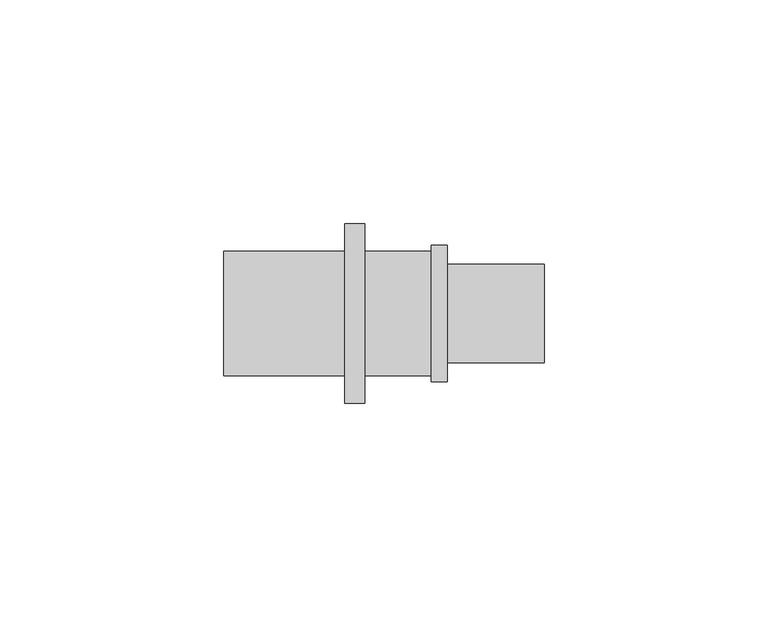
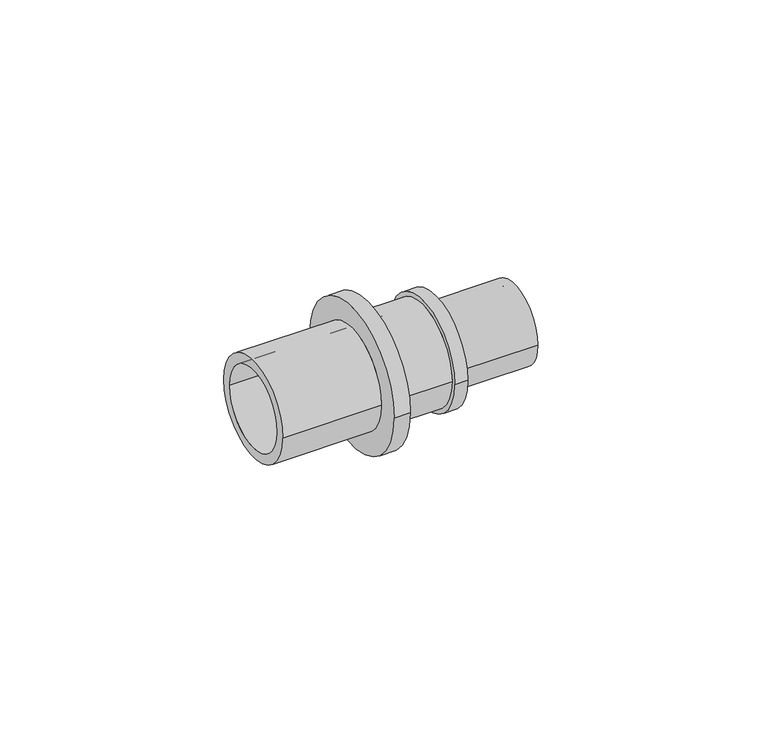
"""IFC4 building model written with IfcOpenShell, lengths in millimetres: pipe fitting geometry, Coupling transistion : C RE SDR11 LX."""

from ifc_helpers import new_model, si_unit, frame, origin, place, context, project, spatial, polyline, circle_curve, source, transform, mapped, element, save
from ifc_brep_helpers import plane_surface, cylinder_surface, revolved_surface, advanced_brep


def pipe_fitting_af9ba397(model_context):
    return source(origin(), model_context, "Body", "AdvancedBrep", [
        advanced_brep(
        [(-11.9, 13.95, 0.0), (-11.9, -13.95, 0.0), (-38.9, -13.95, 0.0), (-38.9, 13.95, 0.0), (-7.5, 20.0, 0.0), (-7.5, -20.0, 0.0), (-11.9, -20.0, 0.0), (-11.9, 20.0, 0.0), (7.4, 13.95, 0.0), (7.4, -13.95, 0.0), (-7.5, -13.95, 0.0), (-7.5, 13.95, 0.0), (11.0, 15.25, 0.0), (11.0, -15.25, 0.0), (7.4, -15.25, 0.0), (7.4, 15.25, 0.0), (32.6, 11.0, 0.0), (32.6, -11.0, 0.0), (11.0, -11.0, 0.0), (11.0, 11.0, 0.0), (0.0, 8.9, 0.0), (0.0, -8.9, 0.0), (32.6, -8.9, 0.0), (32.6, 8.9, 0.0), (-38.9, 11.2, 0.0), (-38.9, -11.2, 0.0), (0.0, -11.2, 0.0), (0.0, 11.2, 0.0)],
        [
            (0, 1, circle_curve(frame((-11.9, 0.0, 0.0), z_axis=(-1.0, 0.0, 0.0), x_axis=(0.0, -1.0, 0.0)), 13.95)),
            (1, 2),
            (2, 3, circle_curve(frame((-38.9, 0.0, 0.0), z_axis=(1.0, 0.0, 0.0), x_axis=(0.0, -1.0, 0.0)), 13.95)),
            (3, 0),
            (4, 5, circle_curve(frame((-7.5, 0.0, 0.0), z_axis=(-1.0, 0.0, 0.0), x_axis=(0.0, -1.0, 0.0)), 20.0)),
            (5, 6),
            (6, 7, circle_curve(frame((-11.9, 0.0, 0.0), z_axis=(1.0, 0.0, 0.0), x_axis=(0.0, -1.0, 0.0)), 20.0)),
            (7, 4),
            (8, 9, circle_curve(frame((7.4, 0.0, 0.0), z_axis=(-1.0, 0.0, 0.0), x_axis=(0.0, -1.0, 0.0)), 13.95)),
            (9, 10),
            (10, 11, circle_curve(frame((-7.5, 0.0, 0.0), z_axis=(1.0, 0.0, 0.0), x_axis=(0.0, -1.0, 0.0)), 13.95)),
            (11, 8),
            (12, 13, circle_curve(frame((11.0, 0.0, 0.0), z_axis=(-1.0, 0.0, 0.0), x_axis=(0.0, -1.0, 0.0)), 15.25)),
            (13, 14),
            (14, 15, circle_curve(frame((7.4, 0.0, 0.0), z_axis=(1.0, 0.0, 0.0), x_axis=(0.0, -1.0, 0.0)), 15.25)),
            (15, 12),
            (16, 17, circle_curve(frame((32.6, 0.0, 0.0), z_axis=(-1.0, 0.0, 0.0), x_axis=(0.0, -1.0, 0.0)), 11.0)),
            (17, 18),
            (18, 19, circle_curve(frame((11.0, 0.0, 0.0), z_axis=(1.0, 0.0, 0.0), x_axis=(0.0, -1.0, 0.0)), 11.0)),
            (19, 16),
            (20, 21, circle_curve(frame((0.0, 0.0, 0.0), z_axis=(-1.0, 0.0, 0.0), x_axis=(0.0, -1.0, 0.0)), 8.9)),
            (21, 22),
            (22, 23, circle_curve(frame((32.6, 0.0, 0.0), z_axis=(1.0, 0.0, 0.0), x_axis=(0.0, -1.0, 0.0)), 8.9)),
            (23, 20),
            (24, 25, circle_curve(frame((-38.9, 0.0, 0.0), z_axis=(-1.0, 0.0, 0.0), x_axis=(0.0, -1.0, 0.0)), 11.2)),
            (25, 26),
            (26, 27, circle_curve(frame((0.0, 0.0, 0.0), z_axis=(1.0, 0.0, 0.0), x_axis=(0.0, -1.0, 0.0)), 11.2)),
            (27, 24),
            (2, 3, circle_curve(frame((-38.9, 0.0, 0.0), z_axis=(-1.0, 0.0, 0.0), x_axis=(0.0, 1.0, 0.0)), 13.95)),
            (24, 25, circle_curve(frame((-38.9, 0.0, 0.0), z_axis=(1.0, 0.0, 0.0), x_axis=(0.0, 1.0, 0.0)), 11.2)),
            (1, 0, circle_curve(frame((-11.9, 0.0, 0.0), z_axis=(-1.0, 0.0, 0.0), x_axis=(0.0, 1.0, 0.0)), 13.95)),
            (6, 7, circle_curve(frame((-11.9, 0.0, 0.0), z_axis=(-1.0, 0.0, 0.0), x_axis=(0.0, 1.0, 0.0)), 20.0)),
            (5, 4, circle_curve(frame((-7.5, 0.0, 0.0), z_axis=(-1.0, 0.0, 0.0), x_axis=(0.0, 1.0, 0.0)), 20.0)),
            (10, 11, circle_curve(frame((-7.5, 0.0, 0.0), z_axis=(-1.0, 0.0, 0.0), x_axis=(0.0, 1.0, 0.0)), 13.95)),
            (9, 8, circle_curve(frame((7.4, 0.0, 0.0), z_axis=(-1.0, 0.0, 0.0), x_axis=(0.0, 1.0, 0.0)), 13.95)),
            (14, 15, circle_curve(frame((7.4, 0.0, 0.0), z_axis=(-1.0, 0.0, 0.0), x_axis=(0.0, 1.0, 0.0)), 15.25)),
            (13, 12, circle_curve(frame((11.0, 0.0, 0.0), z_axis=(-1.0, 0.0, 0.0), x_axis=(0.0, 1.0, 0.0)), 15.25)),
            (18, 19, circle_curve(frame((11.0, 0.0, 0.0), z_axis=(-1.0, 0.0, 0.0), x_axis=(0.0, 1.0, 0.0)), 11.0)),
            (17, 16, circle_curve(frame((32.6, 0.0, 0.0), z_axis=(-1.0, 0.0, 0.0), x_axis=(0.0, 1.0, 0.0)), 11.0)),
            (22, 23, circle_curve(frame((32.6, 0.0, 0.0), z_axis=(-1.0, 0.0, 0.0), x_axis=(0.0, 1.0, 0.0)), 8.9)),
            (21, 20, circle_curve(frame((0.0, 0.0, 0.0), z_axis=(-1.0, 0.0, 0.0), x_axis=(0.0, 1.0, 0.0)), 8.9)),
            (26, 27, circle_curve(frame((0.0, 0.0, 0.0), z_axis=(-1.0, 0.0, 0.0), x_axis=(0.0, 1.0, 0.0)), 11.2)),
        ],
        [
            cylinder_surface(frame((0.0, 0.0, 0.0), z_axis=(1.0, 0.0, 0.0), x_axis=(0.0, -1.0, 0.0)), 13.95),
            cylinder_surface(frame((0.0, 0.0, 0.0), z_axis=(1.0, 0.0, 0.0), x_axis=(0.0, -1.0, 0.0)), 20.0),
            cylinder_surface(frame((0.0, 0.0, 0.0), z_axis=(1.0, 0.0, 0.0), x_axis=(0.0, -1.0, 0.0)), 15.25),
            cylinder_surface(frame((0.0, 0.0, 0.0), z_axis=(1.0, 0.0, 0.0), x_axis=(0.0, -1.0, 0.0)), 11.0),
            revolved_surface(polyline([(32.6, -8.9, 0.0), (0.0, -8.9, 0.0)]), (0.0, 0.0, 0.0), (1.0, 0.0, 0.0)),
            revolved_surface(polyline([(0.0, -11.2, 0.0), (-38.9, -11.2, 0.0)]), (0.0, 0.0, 0.0), (1.0, 0.0, 0.0)),
            plane_surface(frame((-38.9, 0.0, 0.0), z_axis=(-1.0, 0.0, 0.0), x_axis=(0.0, 1.0, 0.0))),
            cylinder_surface(frame((0.0, 0.0, 0.0), z_axis=(1.0, 0.0, 0.0), x_axis=(0.0, 1.0, 0.0)), 13.95),
            plane_surface(frame((-11.9, 0.0, 0.0), z_axis=(-1.0, 0.0, 0.0), x_axis=(0.0, 1.0, 0.0))),
            cylinder_surface(frame((0.0, 0.0, 0.0), z_axis=(1.0, 0.0, 0.0), x_axis=(0.0, 1.0, 0.0)), 20.0),
            plane_surface(frame((-7.5, 0.0, 0.0), z_axis=(1.0, 0.0, 0.0), x_axis=(0.0, 1.0, 0.0))),
            plane_surface(frame((7.4, 0.0, 0.0), z_axis=(-1.0, 0.0, 0.0), x_axis=(0.0, 1.0, 0.0))),
            cylinder_surface(frame((0.0, 0.0, 0.0), z_axis=(1.0, 0.0, 0.0), x_axis=(0.0, 1.0, 0.0)), 15.25),
            plane_surface(frame((11.0, 0.0, 0.0), z_axis=(1.0, 0.0, 0.0), x_axis=(0.0, 1.0, 0.0))),
            cylinder_surface(frame((0.0, 0.0, 0.0), z_axis=(1.0, 0.0, 0.0), x_axis=(0.0, 1.0, 0.0)), 11.0),
            plane_surface(frame((32.6, 0.0, 0.0), z_axis=(1.0, 0.0, 0.0), x_axis=(0.0, 1.0, 0.0))),
            revolved_surface(polyline([(32.6, 8.9, 0.0), (0.0, 8.9, 0.0)]), (0.0, 0.0, 0.0), (1.0, 0.0, 0.0)),
            plane_surface(frame((0.0, 0.0, 0.0), z_axis=(-1.0, 0.0, 0.0), x_axis=(0.0, 1.0, 0.0))),
            revolved_surface(polyline([(0.0, 11.2, 0.0), (-38.9, 11.2, 0.0)]), (0.0, 0.0, 0.0), (1.0, 0.0, 0.0)),
        ],
        [
            (0, [[1, 2, 3, 4]]),
            (1, [[5, 6, 7, 8]]),
            (0, [[9, 10, 11, 12]]),
            (2, [[13, 14, 15, 16]]),
            (3, [[17, 18, 19, 20]]),
            (4, [[21, 22, 23, 24]]),
            (5, [[25, 26, 27, 28]]),
            (6, [[29, -3], [30, -25]]),
            (7, [[31, -4, -29, -2]]),
            (8, [[32, -7], [-31, -1]]),
            (9, [[33, -8, -32, -6]]),
            (10, [[-33, -5], [34, -11]]),
            (7, [[35, -12, -34, -10]]),
            (11, [[36, -15], [-35, -9]]),
            (12, [[37, -16, -36, -14]]),
            (13, [[-37, -13], [38, -19]]),
            (14, [[39, -20, -38, -18]]),
            (15, [[-39, -17], [40, -23]]),
            (16, [[41, -24, -40, -22]]),
            (17, [[42, -27], [-41, -21]]),
            (18, [[-30, -28, -42, -26]]),
        ],
    ),
    ])


if __name__ == "__main__":
    model = new_model("IFC4")
    model_context = context("Model", 3, world=origin())
    ifc_project = project(units=[si_unit("LENGTHUNIT", "METRE", prefix="MILLI")], contexts=[model_context])
    site = spatial("IfcSite", under=ifc_project)
    building = spatial("IfcBuilding", under=site)
    placement = place(None, origin())
    pipe_fitting_shape = pipe_fitting_af9ba397(model_context)
    element("IfcPipeFitting", 1, ObjectType="Coupling transistion : C RE SDR11 LX", at=placement, inside=building, context=model_context, shape_type="MappedRepresentation", body=[
        mapped(pipe_fitting_shape, transform((0.0, 0.0, 0.0), x_axis=(1.0, 0.0, 0.0), y_axis=(0.0, 1.0, 0.0), z_axis=(0.0, 0.0, 1.0))),
    ])
    save(model, "model.ifc")
